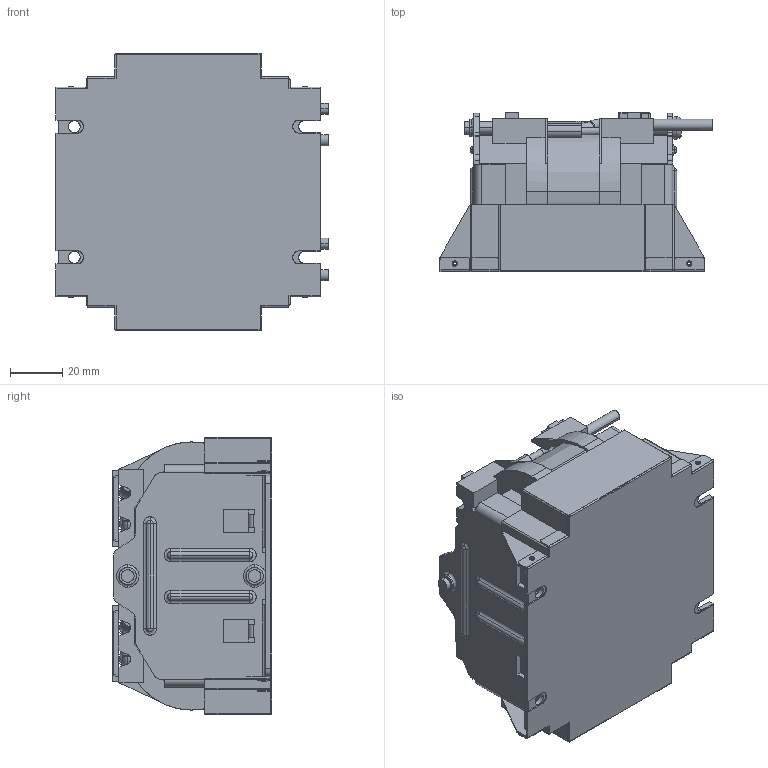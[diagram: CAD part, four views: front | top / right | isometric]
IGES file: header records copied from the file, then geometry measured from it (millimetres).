
Start section: SolidWorks IGES file using analytic representation for surfaces
Global section: file name: 34H\\10.106.230.1\R&D File\05_COMP\02_Mechanical\10_Others\PV_RT 81\网络用3D模型\半灌封模型\3KW_G_ACL\SF14218B-GM00DS20R(M-3KW_ACL-G).IGS; native system: SolidWorks 2009; preprocessor: SolidWorks 2009; author: Administrator; date: 120508.153613; units: millimetre
Bounding box: 104 x 60.9 x 106 mm (x, y, z)
Surface area: 143836.1 mm2 (no closed solid volume)
Topology: 0 solids, 0 shells, 1161 faces, 9331 edges, 9308 vertices
Faces by surface type: bspline 765, revolution 396
